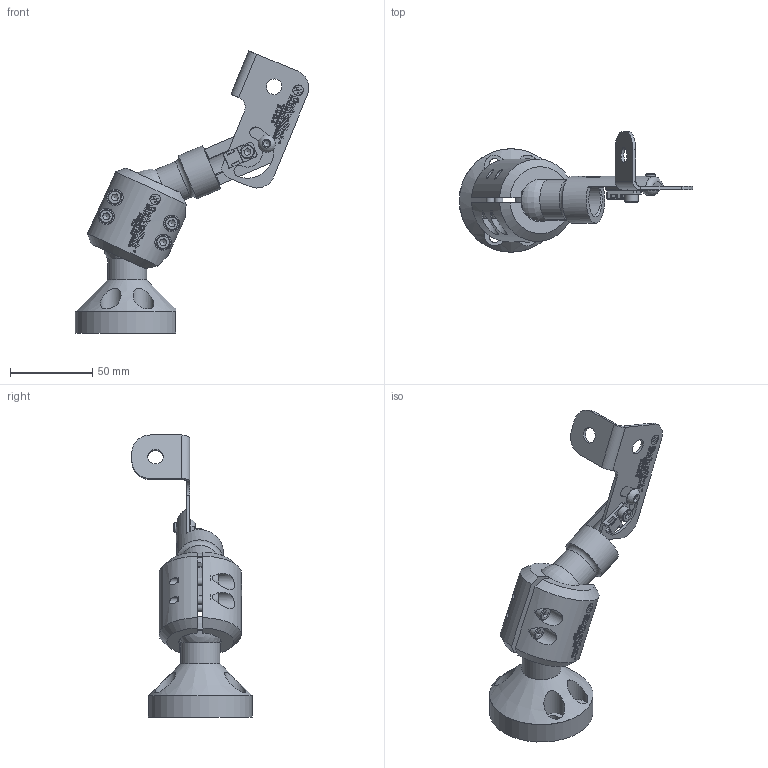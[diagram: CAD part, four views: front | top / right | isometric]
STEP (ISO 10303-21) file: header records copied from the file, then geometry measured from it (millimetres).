
FILE_DESCRIPTION (( 'STEP AP203' ), '1' );
FILE_NAME ('SLM-1000-SBKIT-8.STEP', '2020-06-02T12:44:59', ( '' ), ( '' ), 'SwSTEP 2.0', 'SolidWorks 2020', '' );
FILE_SCHEMA (( 'CONFIG_CONTROL_DESIGN' ));
Length unit declared in the file: inch
Products named in the file (10): SLM-2; SLM-1000-SBKIT-8; SLM-2_Swivellink Etching; M6-1 x 10mm, Button Head, Black Oxide_MBHCS-86340-BO; SLM-SB-8; SLM-SBH; SLM-1; 07281137; M5-0.8 x 8mm, Socket Head, Black Oxide_MSHCS-39543-BO; MSHCS-39547-BO_MSHCS-39547-BO
Assembly tree (12 placements, depth 3):
  SLM-1000-SBKIT-8
    SLM-1
    SLM-2
      SLM-2_Swivellink Etching
      MSHCS-39547-BO_MSHCS-39547-BO  x4
    SLM-SBH
    SLM-SB-8
    07281137
    M6-1 x 10mm, Button Head, Black Oxide_MBHCS-86340-BO
    M5-0.8 x 8mm, Socket Head, Black Oxide_MSHCS-39543-BO
Bounding box: 142.34 x 73.18 x 171.81 mm (x, y, z)
Volume: 83572.9 mm3; surface area: 55346.7 mm2
Topology: 11 solids, 13 shells, 534 faces, 3813 edges, 3510 vertices
Faces by surface type: cylinder 238, plane 238, cone 28, torus 15, sphere 11, bspline 4
Full cylindrical faces by diameter (mm): 4.2 x5, 5 x6, 5.08 x1, 5.8 x4, 6 x1, 7.144 x1, 8.5 x5, 9.525 x2, 10 x4, 10.5 x1, 12.7 x4, 19.05 x1, 20.638 x1, 23.812 x2, 28.499 x1
Entity records: 43303 total; most frequent: CARTESIAN_POINT 15484, ORIENTED_EDGE 7142, DIRECTION 3777, EDGE_CURVE 3573, VERTEX_POINT 3396, LINE 1619, VECTOR 1619, B_SPLINE_CURVE_WITH_KNOTS 1347
